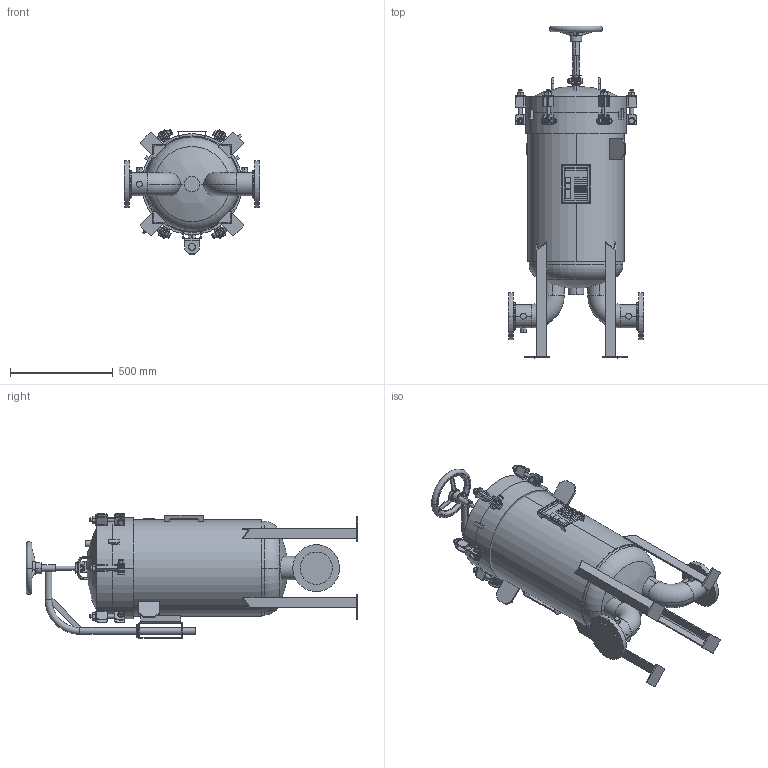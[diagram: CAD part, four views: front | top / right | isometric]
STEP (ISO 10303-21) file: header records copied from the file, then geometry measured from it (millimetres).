
FILE_DESCRIPTION (( 'STEP AP203' ), '1' );
FILE_NAME ('002005-00165.step', '2026-01-06T16:46:26', ( '' ), ( '' ), 'SwSTEP 2.0', 'SolidWorks 2023', '' );
FILE_SCHEMA (( 'CONFIG_CONTROL_DESIGN' ));
Length unit declared in the file: inch
Products named in the file (1): 002005-00165
Bounding box: 660.4 x 1618.03 x 608.23 mm (x, y, z)
Volume: 59277268 mm3; surface area: 5337152.7 mm2
Topology: 45 solids, 45 shells, 1436 faces, 3336 edges, 2076 vertices
Faces by surface type: plane 618, cylinder 396, cone 284, torus 78, bspline 48, sphere 12
Entity records: 47846 total; most frequent: CARTESIAN_POINT 15561, DIRECTION 6770, ORIENTED_EDGE 6648, EDGE_CURVE 3324, AXIS2_PLACEMENT_3D 2687, VERTEX_POINT 2076, EDGE_LOOP 1548, FACE_OUTER_BOUND 1436
